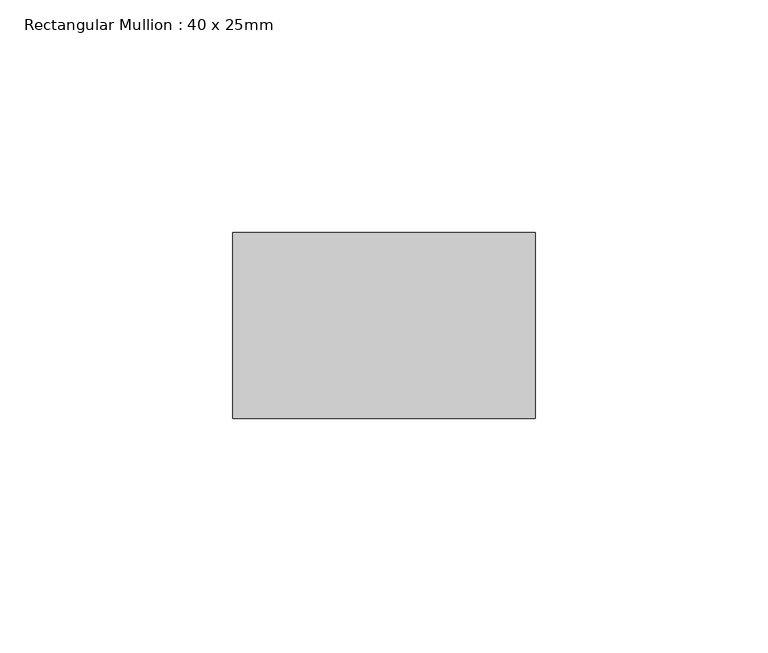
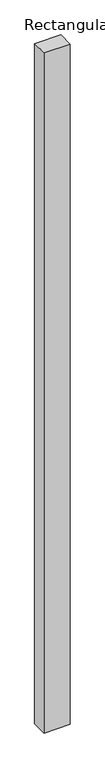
"""IFC4 building model written with IfcOpenShell, lengths in millimetres: member geometry, Rectangular Mullion : 40 x 25mm."""

from ifc_helpers import new_model, si_unit, frame, origin, place, context, project, spatial, polyline, outline, extrude, source, transform, mapped, element, save


def rectangular_mullion_40_x_25mm_8daac411(model_context):
    return source(origin(), model_context, "Body", "SweptSolid", [
        extrude(outline(polyline([(0.0, -20.0), (0.0, -60.0), (-65.0, -60.0), (-65.0, -20.0), (0.0, -20.0)])), frame((0.0, 0.0, -1789.9), z_axis=(0.0, 0.0, 1.0), x_axis=(1.0, 0.0, 0.0)), (0.0, 0.0, 1.0), 1789.9),
    ])


if __name__ == "__main__":
    model = new_model("IFC4")
    model_context = context("Model", 3, world=origin())
    ifc_project = project(units=[si_unit("LENGTHUNIT", "METRE", prefix="MILLI")], contexts=[model_context])
    site = spatial("IfcSite", under=ifc_project)
    building = spatial("IfcBuilding", under=site)
    placement = place(None, origin())
    rectangular_mullion_40_x_25mm_shape = rectangular_mullion_40_x_25mm_8daac411(model_context)
    element("IfcMember", 1, ObjectType="Rectangular Mullion : 40 x 25mm", at=placement, inside=building, context=model_context, shape_type="MappedRepresentation", body=[
        mapped(rectangular_mullion_40_x_25mm_shape, transform((0.0, 0.0, 0.0), x_axis=(1.0, 0.0, 0.0), y_axis=(0.0, 1.0, 0.0), z_axis=(0.0, 0.0, 1.0))),
    ])
    save(model, "model.ifc")
